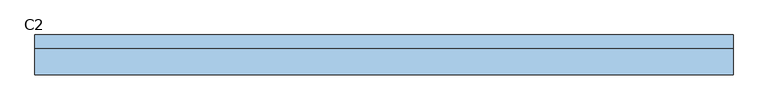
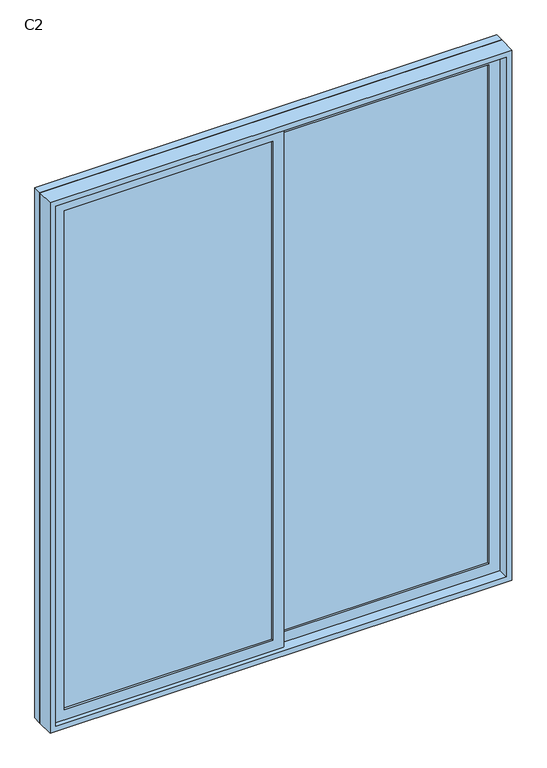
"""IFC4 building model written with IfcOpenShell, lengths in millimetres: window geometry, 推拉窗6 : C2."""

from ifc_helpers import new_model, si_unit, frame, origin, place, context, project, spatial, polyline, outline, extrude, source, transform, mapped, element, save


def c2_0ae93d67(model_context):
    return source(origin(), model_context, "Body", "SweptSolid", [
        extrude(outline(polyline([(-965.475, 36.8734375), (-965.475, 46.8734375), (-15.475, 46.8734375), (-15.475, 36.8734375), (-965.475, 36.8734375)])), frame((0.0, 0.0, 225.0), z_axis=(0.0, 0.0, 1.0), x_axis=(1.0, 0.0, 0.0)), (0.0, 0.0, 1.0), 2400.0),
        extrude(outline(polyline([(34.525, 66.8734375), (34.525, 76.8734375), (984.525, 76.8734375), (984.525, 66.8734375), (34.525, 66.8734375)])), frame((0.0, 0.0, 225.0), z_axis=(0.0, 0.0, 1.0), x_axis=(1.0, 0.0, 0.0)), (0.0, 0.0, 1.0), 2400.0),
        extrude(outline(polyline([(2700.0, -1040.475), (150.0, -1040.475), (150.0, 1059.525), (2700.0, 1059.525), (2700.0, -1040.475)]), holes=[polyline([(2645.0, 1009.525), (205.0, 1009.525), (205.0, -990.475), (2645.0, -990.475), (2645.0, 1009.525)])]), frame((0.0, 86.8734375, 0.0), z_axis=(0.0, 1.0, 0.0), x_axis=(0.0, 0.0, 1.0)), (0.0, 0.0, 1.0), 40.0),
        extrude(outline(polyline([(175.0, 34.525), (2675.0, 34.525), (2675.0, -1015.475), (175.0, -1015.475), (175.0, 34.525)]), holes=[polyline([(225.0, -15.475), (225.0, -965.475), (2625.0, -965.475), (2625.0, -15.475), (225.0, -15.475)])]), frame((0.0, 26.8734375, 0.0), z_axis=(0.0, 1.0, 0.0), x_axis=(0.0, 0.0, 1.0)), (0.0, 0.0, 1.0), 30.0),
        extrude(outline(polyline([(2675.0, -15.475), (175.0, -15.475), (175.0, 1034.525), (2675.0, 1034.525), (2675.0, -15.475)]), holes=[polyline([(2625.0, 34.525), (2625.0, 984.525), (225.0, 984.525), (225.0, 34.525), (2625.0, 34.525)])]), frame((0.0, 56.8734375, 0.0), z_axis=(0.0, 1.0, 0.0), x_axis=(0.0, 0.0, 1.0)), (0.0, 0.0, 1.0), 30.0),
        extrude(outline(polyline([(2700.0, -1040.475), (150.0, -1040.475), (150.0, 1059.525), (2700.0, 1059.525), (2700.0, -1040.475)]), holes=[polyline([(175.0, -1015.475), (2675.0, -1015.475), (2675.0, 1034.525), (175.0, 1034.525), (175.0, -1015.475)])]), frame((0.0, 6.8734375, 0.0), z_axis=(0.0, 1.0, 0.0), x_axis=(0.0, 0.0, 1.0)), (0.0, 0.0, 1.0), 80.0),
    ])


if __name__ == "__main__":
    model = new_model("IFC4")
    model_context = context("Model", 3, world=origin())
    ifc_project = project(units=[si_unit("LENGTHUNIT", "METRE", prefix="MILLI")], contexts=[model_context])
    site = spatial("IfcSite", under=ifc_project)
    building = spatial("IfcBuilding", under=site)
    placement = place(None, origin())
    c2_shape = c2_0ae93d67(model_context)
    element("IfcWindow", 1, ObjectType="推拉窗6 : C2", at=placement, inside=building, context=model_context, shape_type="MappedRepresentation", body=[
        mapped(c2_shape, transform((0.0, 0.0, 0.0), x_axis=(1.0, 0.0, 0.0), y_axis=(0.0, 1.0, 0.0), z_axis=(0.0, 0.0, 1.0))),
    ])
    save(model, "model.ifc")
